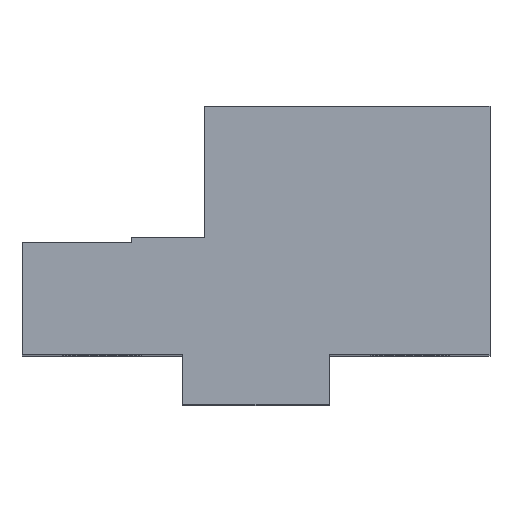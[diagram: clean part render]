
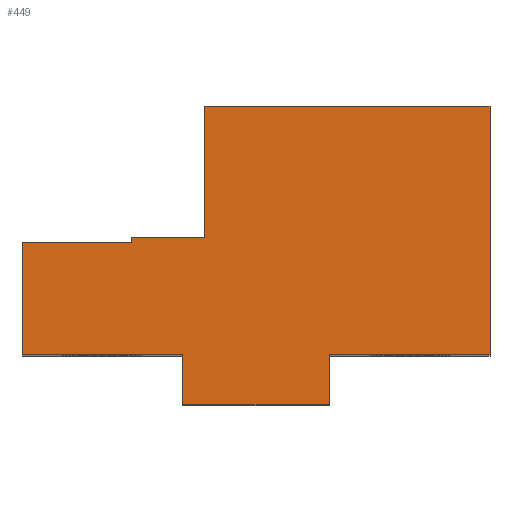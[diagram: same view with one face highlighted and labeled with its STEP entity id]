
A CAD part, top view. The second image highlights one B-rep face of the part: STEP entity #449.
In plain terms, the highlighted planar face has unit normal (0, 0, 1).
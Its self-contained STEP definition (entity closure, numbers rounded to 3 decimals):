
#11 = VERTEX_POINT ( 'NONE', #395 ) ;
#13 = EDGE_CURVE ( 'NONE', #194, #11, #394, .T. ) ;
#18 = EDGE_CURVE ( 'NONE', #251, #70, #390, .T. ) ;
#31 = VERTEX_POINT ( 'NONE', #369 ) ;
#33 = EDGE_CURVE ( 'NONE', #85, #31, #368, .T. ) ;
#41 = VERTEX_POINT ( 'NONE', #349 ) ;
#62 = EDGE_CURVE ( 'NONE', #63, #251, #310, .T. ) ;
#63 = VERTEX_POINT ( 'NONE', #697 ) ;
#70 = VERTEX_POINT ( 'NONE', #712 ) ;
#76 = EDGE_CURVE ( 'NONE', #227, #237, #705, .T. ) ;
#85 = VERTEX_POINT ( 'NONE', #736 ) ;
#183 = VERTEX_POINT ( 'NONE', #777 ) ;
#185 = EDGE_CURVE ( 'NONE', #41, #460, #776, .T. ) ;
#194 = VERTEX_POINT ( 'NONE', #757 ) ;
#196 = EDGE_CURVE ( 'NONE', #460, #194, #756, .T. ) ;
#207 = EDGE_CURVE ( 'NONE', #31, #41, #1092, .T. ) ;
#227 = VERTEX_POINT ( 'NONE', #919 ) ;
#229 = EDGE_CURVE ( 'NONE', #70, #227, #918, .T. ) ;
#237 = VERTEX_POINT ( 'NONE', #964 ) ;
#251 = VERTEX_POINT ( 'NONE', #939 ) ;
#307 = DIRECTION ( 'NONE',  ( 0., -1., 0. ) ) ;
#308 = VECTOR ( 'NONE', #307, 1000. ) ;
#309 = CARTESIAN_POINT ( 'NONE',  ( -32., 22.2, 44.75 ) ) ;
#310 = LINE ( 'NONE', #309, #308 ) ;
#349 = CARTESIAN_POINT ( 'NONE',  ( 32., 40.8, 44.75 ) ) ;
#365 = DIRECTION ( 'NONE',  ( 1., 0., 0. ) ) ;
#366 = VECTOR ( 'NONE', #365, 1000. ) ;
#367 = CARTESIAN_POINT ( 'NONE',  ( 10., 6.8, 44.75 ) ) ;
#368 = LINE ( 'NONE', #367, #366 ) ;
#369 = CARTESIAN_POINT ( 'NONE',  ( 32., 6.8, 44.75 ) ) ;
#387 = DIRECTION ( 'NONE',  ( 1., 0., 0. ) ) ;
#388 = VECTOR ( 'NONE', #387, 1000. ) ;
#389 = CARTESIAN_POINT ( 'NONE',  ( -32., 6.8, 44.75 ) ) ;
#390 = LINE ( 'NONE', #389, #388 ) ;
#391 = DIRECTION ( 'NONE',  ( -1., 0., 0. ) ) ;
#392 = VECTOR ( 'NONE', #391, 1000. ) ;
#393 = CARTESIAN_POINT ( 'NONE',  ( -7., 22.8, 44.75 ) ) ;
#394 = LINE ( 'NONE', #393, #392 ) ;
#395 = CARTESIAN_POINT ( 'NONE',  ( -17., 22.8, 44.75 ) ) ;
#448 = EDGE_CURVE ( 'NONE', #183, #63, #1004, .T. ) ;
#449 = ADVANCED_FACE ( 'NONE', ( #1244 ), #1241, .T. ) ;
#450 = EDGE_LOOP ( 'NONE', ( #451, #452, #453, #454, #455, #473, #478, #479, #480, #481, #482, #483 ) ) ;
#451 = ORIENTED_EDGE ( 'NONE', *, *, #62, .T. ) ;
#452 = ORIENTED_EDGE ( 'NONE', *, *, #18, .T. ) ;
#453 = ORIENTED_EDGE ( 'NONE', *, *, #229, .T. ) ;
#454 = ORIENTED_EDGE ( 'NONE', *, *, #76, .T. ) ;
#455 = ORIENTED_EDGE ( 'NONE', *, *, #461, .T. ) ;
#460 = VERTEX_POINT ( 'NONE', #1266 ) ;
#461 = EDGE_CURVE ( 'NONE', #237, #85, #1265, .T. ) ;
#473 = ORIENTED_EDGE ( 'NONE', *, *, #33, .T. ) ;
#478 = ORIENTED_EDGE ( 'NONE', *, *, #207, .T. ) ;
#479 = ORIENTED_EDGE ( 'NONE', *, *, #185, .T. ) ;
#480 = ORIENTED_EDGE ( 'NONE', *, *, #196, .T. ) ;
#481 = ORIENTED_EDGE ( 'NONE', *, *, #13, .T. ) ;
#482 = ORIENTED_EDGE ( 'NONE', *, *, #494, .T. ) ;
#483 = ORIENTED_EDGE ( 'NONE', *, *, #448, .T. ) ;
#494 = EDGE_CURVE ( 'NONE', #11, #183, #1166, .T. ) ;
#697 = CARTESIAN_POINT ( 'NONE',  ( -32., 22.2, 44.75 ) ) ;
#702 = DIRECTION ( 'NONE',  ( 1., 0., 0. ) ) ;
#703 = VECTOR ( 'NONE', #702, 1000. ) ;
#704 = CARTESIAN_POINT ( 'NONE',  ( -10., 0., 44.75 ) ) ;
#705 = LINE ( 'NONE', #704, #703 ) ;
#712 = CARTESIAN_POINT ( 'NONE',  ( -10., 6.8, 44.75 ) ) ;
#736 = CARTESIAN_POINT ( 'NONE',  ( 10., 6.8, 44.75 ) ) ;
#753 = DIRECTION ( 'NONE',  ( 0., -1., 0. ) ) ;
#754 = VECTOR ( 'NONE', #753, 1000. ) ;
#755 = CARTESIAN_POINT ( 'NONE',  ( -7., 40.8, 44.75 ) ) ;
#756 = LINE ( 'NONE', #755, #754 ) ;
#757 = CARTESIAN_POINT ( 'NONE',  ( -7., 22.8, 44.75 ) ) ;
#773 = DIRECTION ( 'NONE',  ( -1., 0., 0. ) ) ;
#774 = VECTOR ( 'NONE', #773, 1000. ) ;
#775 = CARTESIAN_POINT ( 'NONE',  ( 32., 40.8, 44.75 ) ) ;
#776 = LINE ( 'NONE', #775, #774 ) ;
#777 = CARTESIAN_POINT ( 'NONE',  ( -17., 22.2, 44.75 ) ) ;
#915 = DIRECTION ( 'NONE',  ( 0., -1., 0. ) ) ;
#916 = VECTOR ( 'NONE', #915, 1000. ) ;
#917 = CARTESIAN_POINT ( 'NONE',  ( -10., 6.8, 44.75 ) ) ;
#918 = LINE ( 'NONE', #917, #916 ) ;
#919 = CARTESIAN_POINT ( 'NONE',  ( -10., 0., 44.75 ) ) ;
#939 = CARTESIAN_POINT ( 'NONE',  ( -32., 6.8, 44.75 ) ) ;
#964 = CARTESIAN_POINT ( 'NONE',  ( 10., 0., 44.75 ) ) ;
#998 = DIRECTION ( 'NONE',  ( -1., 0., 0. ) ) ;
#999 = VECTOR ( 'NONE', #998, 1000. ) ;
#1000 = CARTESIAN_POINT ( 'NONE',  ( -32., 22.2, 44.75 ) ) ;
#1004 = LINE ( 'NONE', #1000, #999 ) ;
#1089 = DIRECTION ( 'NONE',  ( 0., 1., 0. ) ) ;
#1090 = VECTOR ( 'NONE', #1089, 1000. ) ;
#1091 = CARTESIAN_POINT ( 'NONE',  ( 32., 6.8, 44.75 ) ) ;
#1092 = LINE ( 'NONE', #1091, #1090 ) ;
#1160 = DIRECTION ( 'NONE',  ( 0., -1., 0. ) ) ;
#1161 = VECTOR ( 'NONE', #1160, 1000. ) ;
#1162 = CARTESIAN_POINT ( 'NONE',  ( -17., 22.2, 44.75 ) ) ;
#1166 = LINE ( 'NONE', #1162, #1161 ) ;
#1241 = PLANE ( 'NONE',  #1243 ) ;
#1242 = CARTESIAN_POINT ( 'NONE',  ( -32., 0., 44.75 ) ) ;
#1243 = AXIS2_PLACEMENT_3D ( 'NONE', #1242, #1277, #1276 ) ;
#1244 = FACE_OUTER_BOUND ( 'NONE', #450, .T. ) ;
#1262 = DIRECTION ( 'NONE',  ( 0., 1., 0. ) ) ;
#1263 = VECTOR ( 'NONE', #1262, 1000. ) ;
#1264 = CARTESIAN_POINT ( 'NONE',  ( 10., 0., 44.75 ) ) ;
#1265 = LINE ( 'NONE', #1264, #1263 ) ;
#1266 = CARTESIAN_POINT ( 'NONE',  ( -7., 40.8, 44.75 ) ) ;
#1276 = DIRECTION ( 'NONE',  ( 1., 0., 0. ) ) ;
#1277 = DIRECTION ( 'NONE',  ( 0., 0., 1. ) ) ;
